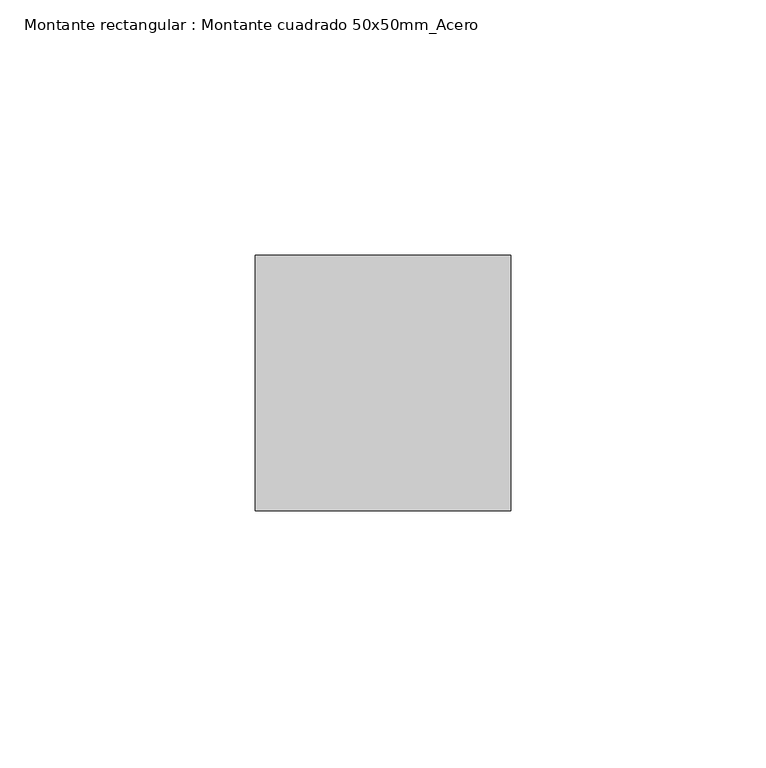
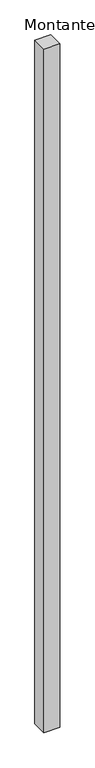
"""IFC4 building model written with IfcOpenShell, lengths in millimetres: member geometry, Montante rectangular : Montante cuadrado 50x50mm_Acero."""

from ifc_helpers import new_model, si_unit, frame, origin, place, context, project, spatial, polyline, outline, extrude, source, transform, mapped, element, save


def montante_rectangular_montante_cuadrado_50x50mm_acero_bf3a267d(model_context):
    return source(origin(), model_context, "Body", "SweptSolid", [
        extrude(outline(polyline([(0.0, 0.0), (-50.0, 0.0), (-50.0, 50.0), (0.0, 50.0), (0.0, 0.0)])), frame((0.0, 0.0, -2300.0), z_axis=(0.0, 0.0, 1.0), x_axis=(1.0, 0.0, 0.0)), (0.0, 0.0, 1.0), 2300.0),
    ])


if __name__ == "__main__":
    model = new_model("IFC4")
    model_context = context("Model", 3, world=origin())
    ifc_project = project(units=[si_unit("LENGTHUNIT", "METRE", prefix="MILLI")], contexts=[model_context])
    site = spatial("IfcSite", under=ifc_project)
    building = spatial("IfcBuilding", under=site)
    placement = place(None, origin())
    montante_rectangular_montante_cuadrado_50x50mm_acero_shape = montante_rectangular_montante_cuadrado_50x50mm_acero_bf3a267d(model_context)
    element("IfcMember", 1, ObjectType="Montante rectangular : Montante cuadrado 50x50mm_Acero", at=placement, inside=building, context=model_context, shape_type="MappedRepresentation", body=[
        mapped(montante_rectangular_montante_cuadrado_50x50mm_acero_shape, transform((0.0, 0.0, 0.0), x_axis=(1.0, 0.0, 0.0), y_axis=(0.0, 1.0, 0.0), z_axis=(0.0, 0.0, 1.0))),
    ])
    save(model, "model.ifc")
